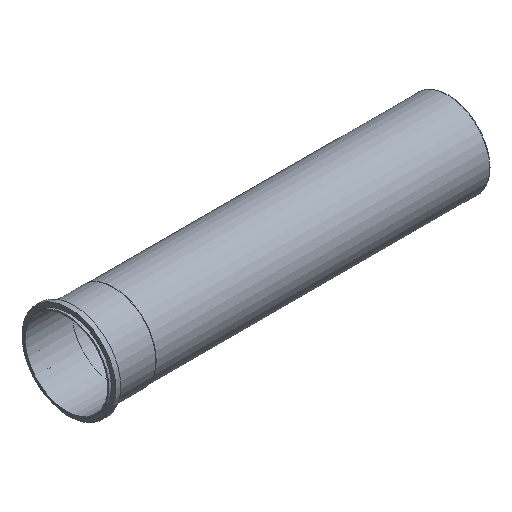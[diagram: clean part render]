
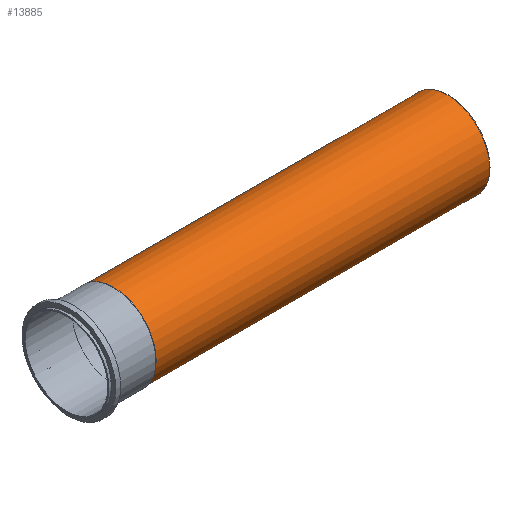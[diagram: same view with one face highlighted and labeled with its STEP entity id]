
A CAD part, isometric view. The second image highlights one B-rep face of the part: STEP entity #13885.
In plain terms, the highlighted cylindrical face has radius 54.991 mm (diameter 109.982 mm), a full revolution.
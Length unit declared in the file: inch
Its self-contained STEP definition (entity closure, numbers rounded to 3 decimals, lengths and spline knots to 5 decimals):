
#13854=CARTESIAN_POINT('',(2.44,2.165,0.0));
#13855=VERTEX_POINT('',#13854);
#13856=CARTESIAN_POINT('',(2.44,0.0,0.0));
#13857=DIRECTION('',(1.0,0.0,0.0));
#13858=DIRECTION('',(0.0,1.0,0.0));
#13859=AXIS2_PLACEMENT_3D('',#13856,#13857,#13858);
#13860=CIRCLE('',#13859,2.165);
#13861=EDGE_CURVE('',#13855,#13855,#13860,.T.);
#13866=CARTESIAN_POINT('',(11.06252,0.0,0.0));
#13867=DIRECTION('',(1.0,0.0,0.0));
#13868=DIRECTION('',(0.0,1.0,0.0));
#13869=AXIS2_PLACEMENT_3D('',#13866,#13867,#13868);
#13870=CYLINDRICAL_SURFACE('',#13869,2.165);
#13871=CARTESIAN_POINT('',(19.68504,2.165,0.0));
#13872=VERTEX_POINT('',#13871);
#13873=CARTESIAN_POINT('',(19.68504,0.0,0.0));
#13874=DIRECTION('',(1.0,0.0,0.0));
#13875=DIRECTION('',(0.0,1.0,0.0));
#13876=AXIS2_PLACEMENT_3D('',#13873,#13874,#13875);
#13877=CIRCLE('',#13876,2.165);
#13878=EDGE_CURVE('',#13872,#13872,#13877,.T.);
#13879=ORIENTED_EDGE('',*,*,#13878,.F.);
#13880=EDGE_LOOP('',(#13879));
#13881=FACE_OUTER_BOUND('',#13880,.T.);
#13882=ORIENTED_EDGE('',*,*,#13861,.T.);
#13883=EDGE_LOOP('',(#13882));
#13884=FACE_BOUND('',#13883,.T.);
#13885=ADVANCED_FACE('',(#13881,#13884),#13870,.T.);
